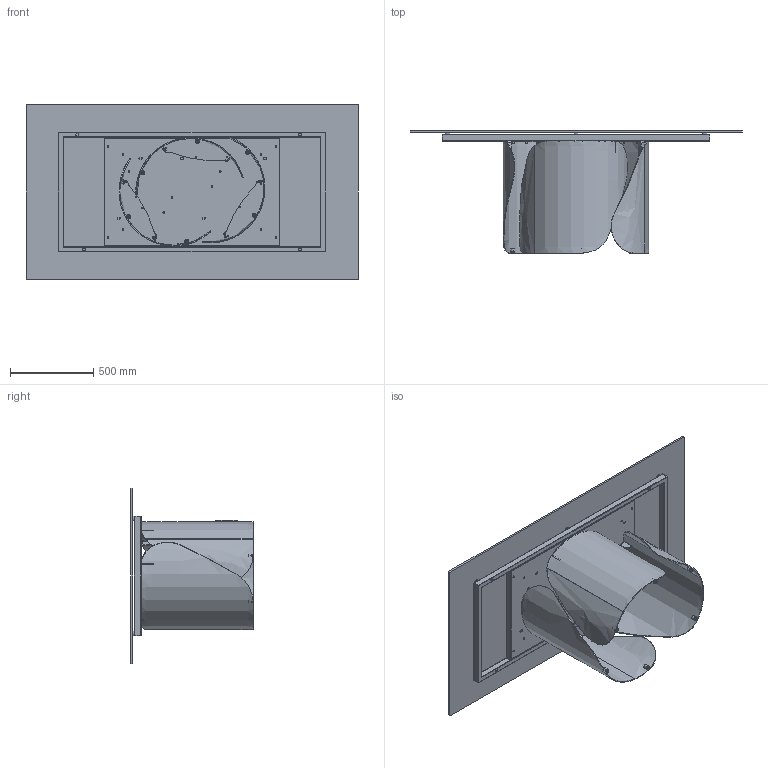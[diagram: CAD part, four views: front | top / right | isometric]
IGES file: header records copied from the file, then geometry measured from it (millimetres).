
Start section: SolidWorks IGES file using analytic representation for surfaces
Global section: file name: Y:\eforma\TECNICO\SOLIDWORKS\E-FORMA\1-TAVOLI\ONDA\02 parts\ON21G.IGS; native system: SolidWorks 2022; preprocessor: SolidWorks 2022; author: eforma.tech; date: 240806.155030; units: millimetre
Bounding box: 2000 x 738 x 1060 mm (x, y, z)
Volume: 38352573.7 mm3; surface area: 10606819.5 mm2
Topology: 63 solids, 63 shells, 1551 faces, 3509 edges, 2114 vertices
Faces by surface type: revolution 909, plane 582, bspline 60
